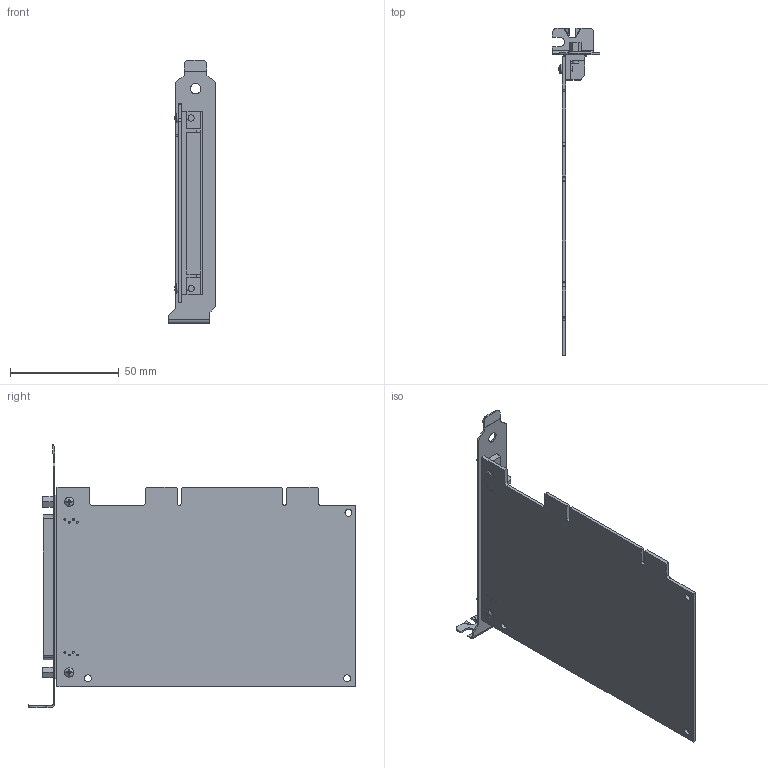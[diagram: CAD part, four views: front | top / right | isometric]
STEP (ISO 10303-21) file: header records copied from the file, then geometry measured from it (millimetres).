
FILE_DESCRIPTION((''),'2;1');
FILE_NAME('CU_PCI-6511','2011-08-18T',('dkendric'),(''),'PRO/ENGINEER BY PARAMETRIC TECHNOLOGY CORPORATION, 2010230','PRO/ENGINEER BY PARAMETRIC TECHNOLOGY CORPORATION, 2010230','');
FILE_SCHEMA(('CONFIG_CONTROL_DESIGN'));
Length unit declared in the file: inch
Products named in the file (1): CU_PCI-6511
Bounding box: 21.59 x 150.43 x 120.78 mm (x, y, z)
Volume: 26724.2 mm3; surface area: 31574 mm2
Topology: 1 solids, 1 shells, 281 faces, 709 edges, 408 vertices
Faces by surface type: plane 153, cylinder 68, bspline 44, cone 8, torus 4, sphere 4
Entity records: 8935 total; most frequent: CARTESIAN_POINT 2532, ORIENTED_EDGE 1330, DIRECTION 1239, EDGE_CURVE 665, VERTEX_POINT 446, VECTOR 413, LINE 413, AXIS2_PLACEMENT_3D 413
